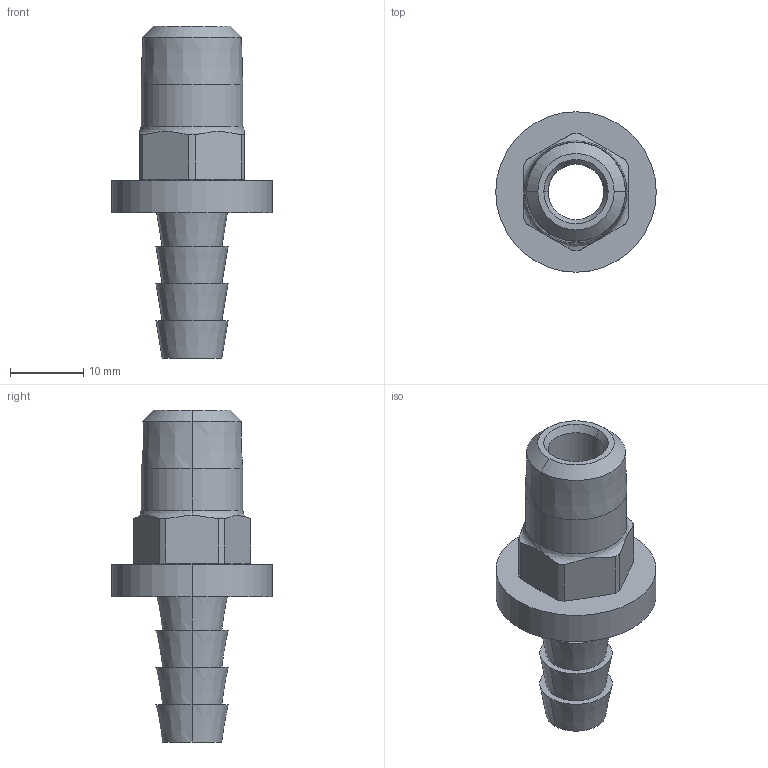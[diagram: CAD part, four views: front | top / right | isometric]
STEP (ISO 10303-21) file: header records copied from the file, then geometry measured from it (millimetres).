
FILE_DESCRIPTION (( 'STEP AP203' ), '1' );
FILE_NAME ('MB38-4-PL.step', '2020-08-19T07:14:24', ( 'Microsoft Corporation' ), ( 'MS' ), 'SwSTEP 2.0', 'SolidWorks 2018', '' );
FILE_SCHEMA (( 'CONFIG_CONTROL_DESIGN' ));
Length unit declared in the file: inch
Products named in the file (1): MB38-4-PL
Bounding box: 21.85 x 21.85 x 45.21 mm (x, y, z)
Volume: 3386.8 mm3; surface area: 3944.8 mm2
Topology: 1 solids, 1 shells, 54 faces, 128 edges, 82 vertices
Faces by surface type: cone 22, cylinder 16, plane 14, bspline 2
Entity records: 1767 total; most frequent: CARTESIAN_POINT 439, DIRECTION 268, ORIENTED_EDGE 256, EDGE_CURVE 128, AXIS2_PLACEMENT_3D 115, VERTEX_POINT 82, CIRCLE 62, EDGE_LOOP 62
